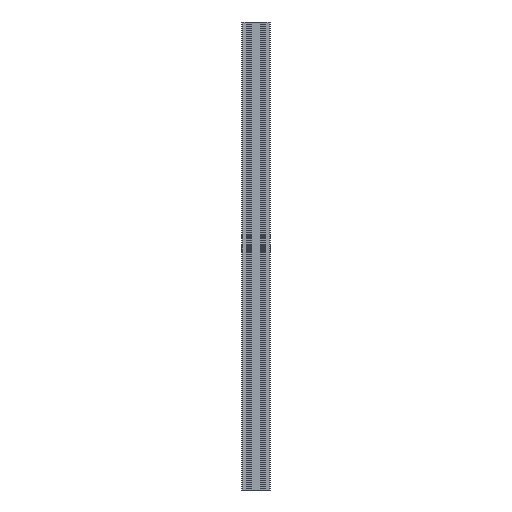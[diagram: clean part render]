
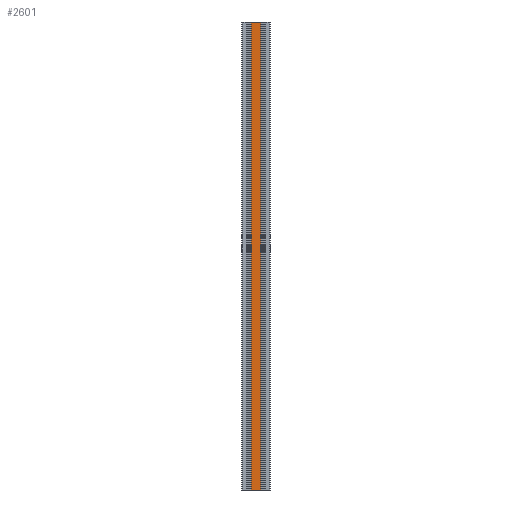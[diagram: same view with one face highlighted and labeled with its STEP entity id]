
A CAD part, left-side view. The second image highlights one B-rep face of the part: STEP entity #2601.
In plain terms, the highlighted planar face has unit normal (-1, 0, 0).
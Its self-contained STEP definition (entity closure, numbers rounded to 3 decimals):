
#166 = EDGE_CURVE ( 'NONE', #6467, #11977, #3425, .T. ) ;
#1187 = CARTESIAN_POINT ( 'NONE',  ( -15., -5.006, 1000. ) ) ;
#1350 = CARTESIAN_POINT ( 'NONE',  ( -15., -25.006, 1000. ) ) ;
#1492 = ORIENTED_EDGE ( 'NONE', *, *, #4012, .F. ) ;
#1512 = VECTOR ( 'NONE', #6128, 1000. ) ;
#1592 = CARTESIAN_POINT ( 'NONE',  ( -15., -25.006, 0. ) ) ;
#1793 = VERTEX_POINT ( 'NONE', #1592 ) ;
#2005 = CARTESIAN_POINT ( 'NONE',  ( -15., -5.006, 0. ) ) ;
#2122 = DIRECTION ( 'NONE',  ( 0., 0., -1. ) ) ;
#2368 = LINE ( 'NONE', #1187, #6980 ) ;
#2425 = CARTESIAN_POINT ( 'NONE',  ( -15., -16.506, 1000. ) ) ;
#2562 = FACE_OUTER_BOUND ( 'NONE', #11832, .T. ) ;
#2601 = ADVANCED_FACE ( 'NONE', ( #2562 ), #10676, .F. ) ;
#2963 = LINE ( 'NONE', #5706, #10025 ) ;
#3425 = LINE ( 'NONE', #4542, #8051 ) ;
#4012 = EDGE_CURVE ( 'NONE', #11977, #1793, #2963, .T. ) ;
#4079 = EDGE_CURVE ( 'NONE', #6467, #10123, #2368, .T. ) ;
#4124 = AXIS2_PLACEMENT_3D ( 'NONE', #2425, #4272, #10723 ) ;
#4272 = DIRECTION ( 'NONE',  ( 1., 0., 0. ) ) ;
#4542 = CARTESIAN_POINT ( 'NONE',  ( -15., -5.006, 1000. ) ) ;
#5197 = CARTESIAN_POINT ( 'NONE',  ( -15., -16.506, 0. ) ) ;
#5706 = CARTESIAN_POINT ( 'NONE',  ( -15., -25.006, 1000. ) ) ;
#6128 = DIRECTION ( 'NONE',  ( 0., -1., 0. ) ) ;
#6467 = VERTEX_POINT ( 'NONE', #10125 ) ;
#6619 = ORIENTED_EDGE ( 'NONE', *, *, #4079, .T. ) ;
#6634 = DIRECTION ( 'NONE',  ( 0., 0., -1. ) ) ;
#6980 = VECTOR ( 'NONE', #2122, 1000. ) ;
#7128 = EDGE_CURVE ( 'NONE', #10123, #1793, #8888, .T. ) ;
#7823 = ORIENTED_EDGE ( 'NONE', *, *, #7128, .T. ) ;
#8051 = VECTOR ( 'NONE', #10072, 1000. ) ;
#8888 = LINE ( 'NONE', #5197, #1512 ) ;
#10025 = VECTOR ( 'NONE', #6634, 1000. ) ;
#10072 = DIRECTION ( 'NONE',  ( 0., -1., 0. ) ) ;
#10123 = VERTEX_POINT ( 'NONE', #2005 ) ;
#10125 = CARTESIAN_POINT ( 'NONE',  ( -15., -5.006, 1000. ) ) ;
#10633 = ORIENTED_EDGE ( 'NONE', *, *, #166, .F. ) ;
#10676 = PLANE ( 'NONE',  #4124 ) ;
#10723 = DIRECTION ( 'NONE',  ( 0., 0., -1. ) ) ;
#11832 = EDGE_LOOP ( 'NONE', ( #7823, #1492, #10633, #6619 ) ) ;
#11977 = VERTEX_POINT ( 'NONE', #1350 ) ;
